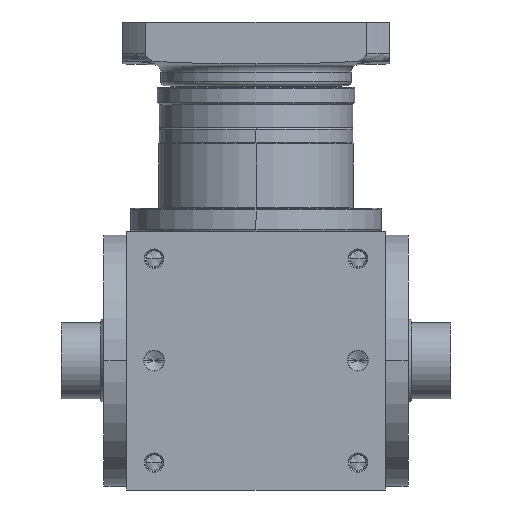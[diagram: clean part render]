
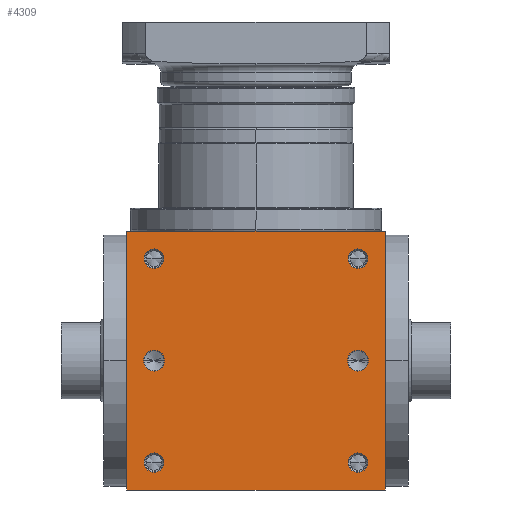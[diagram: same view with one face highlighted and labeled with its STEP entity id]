
A CAD part, front view. The second image highlights one B-rep face of the part: STEP entity #4309.
In plain terms, the highlighted planar face has unit normal (0, -1, 0).
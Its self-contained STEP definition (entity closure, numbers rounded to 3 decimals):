
#6=DIRECTION('',(1.,0.,0.));
#7=VECTOR('',#6,170.);
#8=CARTESIAN_POINT('',(-85.,-85.,-85.));
#9=LINE('',#8,#7);
#156=DIRECTION('',(0.,0.,1.));
#157=VECTOR('',#156,170.);
#158=CARTESIAN_POINT('',(85.,-85.,-85.));
#159=LINE('',#158,#157);
#210=DIRECTION('',(0.,0.,1.));
#211=VECTOR('',#210,170.);
#212=CARTESIAN_POINT('',(-85.,-85.,-85.));
#213=LINE('',#212,#211);
#214=CARTESIAN_POINT('',(67.,-85.,67.));
#215=DIRECTION('',(0.,1.,0.));
#216=DIRECTION('',(-1.,0.,0.));
#217=AXIS2_PLACEMENT_3D('',#214,#215,#216);
#219=CARTESIAN_POINT('',(67.,-85.,67.));
#220=DIRECTION('',(0.,1.,0.));
#221=DIRECTION('',(1.,0.,0.));
#222=AXIS2_PLACEMENT_3D('',#219,#220,#221);
#224=CARTESIAN_POINT('',(-67.,-85.,67.));
#225=DIRECTION('',(0.,1.,0.));
#226=DIRECTION('',(-1.,0.,0.));
#227=AXIS2_PLACEMENT_3D('',#224,#225,#226);
#229=CARTESIAN_POINT('',(-67.,-85.,67.));
#230=DIRECTION('',(0.,1.,0.));
#231=DIRECTION('',(1.,0.,0.));
#232=AXIS2_PLACEMENT_3D('',#229,#230,#231);
#234=CARTESIAN_POINT('',(67.,-85.,-67.));
#235=DIRECTION('',(0.,1.,0.));
#236=DIRECTION('',(-1.,0.,0.));
#237=AXIS2_PLACEMENT_3D('',#234,#235,#236);
#239=CARTESIAN_POINT('',(67.,-85.,-67.));
#240=DIRECTION('',(0.,1.,0.));
#241=DIRECTION('',(1.,0.,0.));
#242=AXIS2_PLACEMENT_3D('',#239,#240,#241);
#244=CARTESIAN_POINT('',(-67.,-85.,-67.));
#245=DIRECTION('',(0.,1.,0.));
#246=DIRECTION('',(-1.,0.,0.));
#247=AXIS2_PLACEMENT_3D('',#244,#245,#246);
#249=CARTESIAN_POINT('',(-67.,-85.,-67.));
#250=DIRECTION('',(0.,1.,0.));
#251=DIRECTION('',(1.,0.,0.));
#252=AXIS2_PLACEMENT_3D('',#249,#250,#251);
#254=CARTESIAN_POINT('',(-67.,-85.,0.));
#255=DIRECTION('',(0.,1.,0.));
#256=DIRECTION('',(1.,0.,0.));
#257=AXIS2_PLACEMENT_3D('',#254,#255,#256);
#259=CARTESIAN_POINT('',(-67.,-85.,0.));
#260=DIRECTION('',(0.,1.,0.));
#261=DIRECTION('',(-1.,0.,0.));
#262=AXIS2_PLACEMENT_3D('',#259,#260,#261);
#264=CARTESIAN_POINT('',(67.,-85.,0.));
#265=DIRECTION('',(0.,1.,0.));
#266=DIRECTION('',(1.,0.,0.));
#267=AXIS2_PLACEMENT_3D('',#264,#265,#266);
#269=CARTESIAN_POINT('',(67.,-85.,0.));
#270=DIRECTION('',(0.,1.,0.));
#271=DIRECTION('',(-1.,0.,0.));
#272=AXIS2_PLACEMENT_3D('',#269,#270,#271);
#286=DIRECTION('',(1.,0.,0.));
#287=VECTOR('',#286,170.);
#288=CARTESIAN_POINT('',(-85.,-85.,85.));
#289=LINE('',#288,#287);
#3475=CARTESIAN_POINT('',(-85.,-85.,-85.));
#3477=VERTEX_POINT('',#3475);
#3478=CARTESIAN_POINT('',(85.,-85.,-85.));
#3479=VERTEX_POINT('',#3478);
#3483=CARTESIAN_POINT('',(-85.,-85.,85.));
#3485=VERTEX_POINT('',#3483);
#3486=CARTESIAN_POINT('',(85.,-85.,85.));
#3487=VERTEX_POINT('',#3486);
#3642=CARTESIAN_POINT('',(60.65,-85.,67.));
#3643=CARTESIAN_POINT('',(73.35,-85.,67.));
#3644=VERTEX_POINT('',#3642);
#3645=VERTEX_POINT('',#3643);
#3650=CARTESIAN_POINT('',(-73.35,-85.,67.));
#3651=CARTESIAN_POINT('',(-60.65,-85.,67.));
#3652=VERTEX_POINT('',#3650);
#3653=VERTEX_POINT('',#3651);
#3658=CARTESIAN_POINT('',(60.65,-85.,-67.));
#3659=CARTESIAN_POINT('',(73.35,-85.,-67.));
#3660=VERTEX_POINT('',#3658);
#3661=VERTEX_POINT('',#3659);
#3666=CARTESIAN_POINT('',(-73.35,-85.,-67.));
#3667=CARTESIAN_POINT('',(-60.65,-85.,-67.));
#3668=VERTEX_POINT('',#3666);
#3669=VERTEX_POINT('',#3667);
#3990=CARTESIAN_POINT('',(-60.15,-85.,
0.));
#3991=CARTESIAN_POINT('',(-73.85,-85.,0.));
#3992=VERTEX_POINT('',#3990);
#3993=VERTEX_POINT('',#3991);
#3998=CARTESIAN_POINT('',(73.85,-85.,0.));
#3999=CARTESIAN_POINT('',(60.15,-85.,0.));
#4000=VERTEX_POINT('',#3998);
#4001=VERTEX_POINT('',#3999);
#4261=CARTESIAN_POINT('',(-85.,-85.,-85.));
#4262=DIRECTION('',(0.,-1.,0.));
#4263=DIRECTION('',(1.,0.,0.));
#4264=AXIS2_PLACEMENT_3D('',#4261,#4262,#4263);
#4265=PLANE('',#4264);
#4266=ORIENTED_EDGE('',*,*,#4101,.F.);
#4267=ORIENTED_EDGE('',*,*,#4144,.T.);
#4269=ORIENTED_EDGE('',*,*,#4268,.T.);
#4270=ORIENTED_EDGE('',*,*,#4223,.F.);
#4271=EDGE_LOOP('',(#4266,#4267,#4269,#4270));
#4272=FACE_OUTER_BOUND('',#4271,.F.);
#4274=ORIENTED_EDGE('',*,*,#4273,.F.);
#4276=ORIENTED_EDGE('',*,*,#4275,.F.);
#4277=EDGE_LOOP('',(#4274,#4276));
#4278=FACE_BOUND('',#4277,.F.);
#4280=ORIENTED_EDGE('',*,*,#4279,.F.);
#4282=ORIENTED_EDGE('',*,*,#4281,.F.);
#4283=EDGE_LOOP('',(#4280,#4282));
#4284=FACE_BOUND('',#4283,.F.);
#4286=ORIENTED_EDGE('',*,*,#4285,.F.);
#4288=ORIENTED_EDGE('',*,*,#4287,.F.);
#4289=EDGE_LOOP('',(#4286,#4288));
#4290=FACE_BOUND('',#4289,.F.);
#4292=ORIENTED_EDGE('',*,*,#4291,.F.);
#4294=ORIENTED_EDGE('',*,*,#4293,.F.);
#4295=EDGE_LOOP('',(#4292,#4294));
#4296=FACE_BOUND('',#4295,.F.);
#4298=ORIENTED_EDGE('',*,*,#4297,.F.);
#4300=ORIENTED_EDGE('',*,*,#4299,.F.);
#4301=EDGE_LOOP('',(#4298,#4300));
#4302=FACE_BOUND('',#4301,.F.);
#4304=ORIENTED_EDGE('',*,*,#4303,.F.);
#4306=ORIENTED_EDGE('',*,*,#4305,.F.);
#4307=EDGE_LOOP('',(#4304,#4306));
#4308=FACE_BOUND('',#4307,.F.);
#4309=ADVANCED_FACE('',(#4272,#4278,#4284,#4290,#4296,#4302,#4308),#4265,.T.);
#218=CIRCLE('',#217,6.35);
#223=CIRCLE('',#222,6.35);
#228=CIRCLE('',#227,6.35);
#233=CIRCLE('',#232,6.35);
#238=CIRCLE('',#237,6.35);
#243=CIRCLE('',#242,6.35);
#248=CIRCLE('',#247,6.35);
#253=CIRCLE('',#252,6.35);
#258=CIRCLE('',#257,6.85);
#263=CIRCLE('',#262,6.85);
#268=CIRCLE('',#267,6.85);
#273=CIRCLE('',#272,6.85);
#4101=EDGE_CURVE('',#3477,#3479,#9,.T.);
#4144=EDGE_CURVE('',#3477,#3485,#213,.T.);
#4223=EDGE_CURVE('',#3479,#3487,#159,.T.);
#4268=EDGE_CURVE('',#3485,#3487,#289,.T.);
#4273=EDGE_CURVE('',#3644,#3645,#218,.T.);
#4275=EDGE_CURVE('',#3645,#3644,#223,.T.);
#4279=EDGE_CURVE('',#3652,#3653,#228,.T.);
#4281=EDGE_CURVE('',#3653,#3652,#233,.T.);
#4285=EDGE_CURVE('',#3660,#3661,#238,.T.);
#4287=EDGE_CURVE('',#3661,#3660,#243,.T.);
#4291=EDGE_CURVE('',#3668,#3669,#248,.T.);
#4293=EDGE_CURVE('',#3669,#3668,#253,.T.);
#4297=EDGE_CURVE('',#3992,#3993,#258,.T.);
#4299=EDGE_CURVE('',#3993,#3992,#263,.T.);
#4303=EDGE_CURVE('',#4000,#4001,#268,.T.);
#4305=EDGE_CURVE('',#4001,#4000,#273,.T.);
